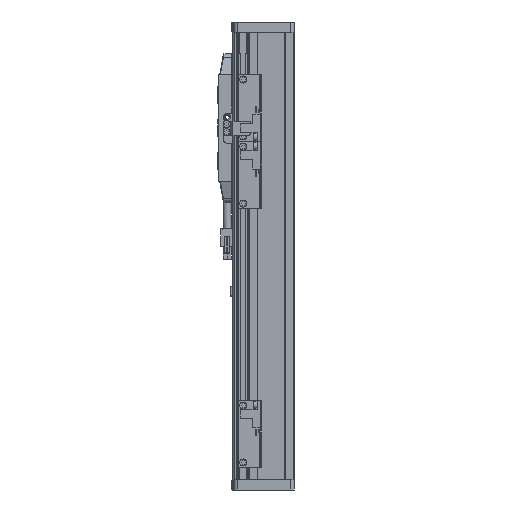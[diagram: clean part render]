
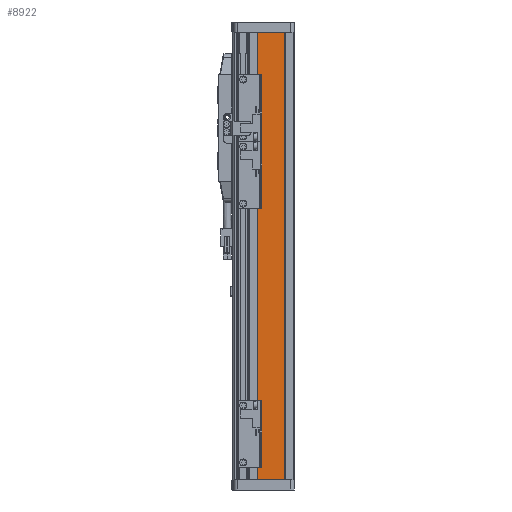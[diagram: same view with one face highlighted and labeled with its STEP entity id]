
A CAD part, left-side view. The second image highlights one B-rep face of the part: STEP entity #8922.
In plain terms, the highlighted planar face has unit normal (-1, 0, 0).
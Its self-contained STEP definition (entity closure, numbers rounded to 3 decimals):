
#152 = PLANE('',#153);
#153 = AXIS2_PLACEMENT_3D('',#154,#155,#156);
#154 = CARTESIAN_POINT('',(0.,0.,175.));
#155 = DIRECTION('',(-0.,0.,1.));
#156 = DIRECTION('',(1.,0.,0.));
#1169 = PLANE('',#1170);
#1170 = AXIS2_PLACEMENT_3D('',#1171,#1172,#1173);
#1171 = CARTESIAN_POINT('',(0.,0.,-175.));
#1172 = DIRECTION('',(-0.,0.,1.));
#1173 = DIRECTION('',(1.,0.,0.));
#4477 = PLANE('',#4478);
#4478 = AXIS2_PLACEMENT_3D('',#4479,#4480,#4481);
#4479 = CARTESIAN_POINT('',(-27.5,-17.,170.));
#4480 = DIRECTION('',(-0.707,0.707,0.));
#4481 = DIRECTION('',(0.,0.,1.));
#4879 = VERTEX_POINT('',#4880);
#4880 = CARTESIAN_POINT('',(-27.1,4.6,175.));
#4894 = PLANE('',#4895);
#4895 = AXIS2_PLACEMENT_3D('',#4896,#4897,#4898);
#4896 = CARTESIAN_POINT('',(-27.1,4.6,170.));
#4897 = DIRECTION('',(-0.707,-0.707,0.));
#4898 = DIRECTION('',(0.,0.,1.));
#4906 = EDGE_CURVE('',#4879,#4907,#4909,.T.);
#4907 = VERTEX_POINT('',#4908);
#4908 = CARTESIAN_POINT('',(-27.1,-16.6,175.));
#4909 = SURFACE_CURVE('',#4910,(#4914,#4921),.PCURVE_S1.);
#4910 = LINE('',#4911,#4912);
#4911 = CARTESIAN_POINT('',(-27.1,8.,175.));
#4912 = VECTOR('',#4913,1.);
#4913 = DIRECTION('',(0.,-1.,0.));
#4914 = PCURVE('',#152,#4915);
#4915 = DEFINITIONAL_REPRESENTATION('',(#4916),#4920);
#4916 = LINE('',#4917,#4918);
#4917 = CARTESIAN_POINT('',(-27.1,8.));
#4918 = VECTOR('',#4919,1.);
#4919 = DIRECTION('',(0.,-1.));
#4920 = ( GEOMETRIC_REPRESENTATION_CONTEXT(2) 
PARAMETRIC_REPRESENTATION_CONTEXT() REPRESENTATION_CONTEXT('2D SPACE',''
  ) );
#4921 = PCURVE('',#4922,#4927);
#4922 = PLANE('',#4923);
#4923 = AXIS2_PLACEMENT_3D('',#4924,#4925,#4926);
#4924 = CARTESIAN_POINT('',(-27.1,8.,170.));
#4925 = DIRECTION('',(1.,0.,0.));
#4926 = DIRECTION('',(0.,1.,0.));
#4927 = DEFINITIONAL_REPRESENTATION('',(#4928),#4932);
#4928 = LINE('',#4929,#4930);
#4929 = CARTESIAN_POINT('',(0.,5.));
#4930 = VECTOR('',#4931,1.);
#4931 = DIRECTION('',(-1.,0.));
#4932 = ( GEOMETRIC_REPRESENTATION_CONTEXT(2) 
PARAMETRIC_REPRESENTATION_CONTEXT() REPRESENTATION_CONTEXT('2D SPACE',''
  ) );
#5946 = VERTEX_POINT('',#5947);
#5947 = CARTESIAN_POINT('',(-27.1,-16.6,-175.));
#5968 = EDGE_CURVE('',#5946,#5969,#5971,.T.);
#5969 = VERTEX_POINT('',#5970);
#5970 = CARTESIAN_POINT('',(-27.1,4.6,-175.));
#5971 = SURFACE_CURVE('',#5972,(#5976,#5983),.PCURVE_S1.);
#5972 = LINE('',#5973,#5974);
#5973 = CARTESIAN_POINT('',(-27.1,0.,-175.));
#5974 = VECTOR('',#5975,1.);
#5975 = DIRECTION('',(0.,1.,0.));
#5976 = PCURVE('',#1169,#5977);
#5977 = DEFINITIONAL_REPRESENTATION('',(#5978),#5982);
#5978 = LINE('',#5979,#5980);
#5979 = CARTESIAN_POINT('',(-27.1,0.));
#5980 = VECTOR('',#5981,1.);
#5981 = DIRECTION('',(0.,1.));
#5982 = ( GEOMETRIC_REPRESENTATION_CONTEXT(2) 
PARAMETRIC_REPRESENTATION_CONTEXT() REPRESENTATION_CONTEXT('2D SPACE',''
  ) );
#5983 = PCURVE('',#4922,#5984);
#5984 = DEFINITIONAL_REPRESENTATION('',(#5985),#5989);
#5985 = LINE('',#5986,#5987);
#5986 = CARTESIAN_POINT('',(-8.,-345.));
#5987 = VECTOR('',#5988,1.);
#5988 = DIRECTION('',(1.,0.));
#5989 = ( GEOMETRIC_REPRESENTATION_CONTEXT(2) 
PARAMETRIC_REPRESENTATION_CONTEXT() REPRESENTATION_CONTEXT('2D SPACE',''
  ) );
#8922 = ADVANCED_FACE('',(#8923),#4922,.F.);
#8923 = FACE_BOUND('',#8924,.T.);
#8924 = EDGE_LOOP('',(#8925,#8926,#8947,#8948));
#8925 = ORIENTED_EDGE('',*,*,#4906,.F.);
#8926 = ORIENTED_EDGE('',*,*,#8927,.T.);
#8927 = EDGE_CURVE('',#4879,#5969,#8928,.T.);
#8928 = SURFACE_CURVE('',#8929,(#8933,#8940),.PCURVE_S1.);
#8929 = LINE('',#8930,#8931);
#8930 = CARTESIAN_POINT('',(-27.1,4.6,-170.));
#8931 = VECTOR('',#8932,1.);
#8932 = DIRECTION('',(0.,0.,-1.));
#8933 = PCURVE('',#4922,#8934);
#8934 = DEFINITIONAL_REPRESENTATION('',(#8935),#8939);
#8935 = LINE('',#8936,#8937);
#8936 = CARTESIAN_POINT('',(-3.4,-340.));
#8937 = VECTOR('',#8938,1.);
#8938 = DIRECTION('',(0.,-1.));
#8939 = ( GEOMETRIC_REPRESENTATION_CONTEXT(2) 
PARAMETRIC_REPRESENTATION_CONTEXT() REPRESENTATION_CONTEXT('2D SPACE',''
  ) );
#8940 = PCURVE('',#4894,#8941);
#8941 = DEFINITIONAL_REPRESENTATION('',(#8942),#8946);
#8942 = LINE('',#8943,#8944);
#8943 = CARTESIAN_POINT('',(-340.,0.));
#8944 = VECTOR('',#8945,1.);
#8945 = DIRECTION('',(-1.,0.));
#8946 = ( GEOMETRIC_REPRESENTATION_CONTEXT(2) 
PARAMETRIC_REPRESENTATION_CONTEXT() REPRESENTATION_CONTEXT('2D SPACE',''
  ) );
#8947 = ORIENTED_EDGE('',*,*,#5968,.F.);
#8948 = ORIENTED_EDGE('',*,*,#8949,.T.);
#8949 = EDGE_CURVE('',#5946,#4907,#8950,.T.);
#8950 = SURFACE_CURVE('',#8951,(#8955,#8962),.PCURVE_S1.);
#8951 = LINE('',#8952,#8953);
#8952 = CARTESIAN_POINT('',(-27.1,-16.6,170.));
#8953 = VECTOR('',#8954,1.);
#8954 = DIRECTION('',(0.,0.,1.));
#8955 = PCURVE('',#4922,#8956);
#8956 = DEFINITIONAL_REPRESENTATION('',(#8957),#8961);
#8957 = LINE('',#8958,#8959);
#8958 = CARTESIAN_POINT('',(-24.6,0.));
#8959 = VECTOR('',#8960,1.);
#8960 = DIRECTION('',(0.,1.));
#8961 = ( GEOMETRIC_REPRESENTATION_CONTEXT(2) 
PARAMETRIC_REPRESENTATION_CONTEXT() REPRESENTATION_CONTEXT('2D SPACE',''
  ) );
#8962 = PCURVE('',#4477,#8963);
#8963 = DEFINITIONAL_REPRESENTATION('',(#8964),#8968);
#8964 = LINE('',#8965,#8966);
#8965 = CARTESIAN_POINT('',(0.,0.566));
#8966 = VECTOR('',#8967,1.);
#8967 = DIRECTION('',(1.,0.));
#8968 = ( GEOMETRIC_REPRESENTATION_CONTEXT(2) 
PARAMETRIC_REPRESENTATION_CONTEXT() REPRESENTATION_CONTEXT('2D SPACE',''
  ) );
